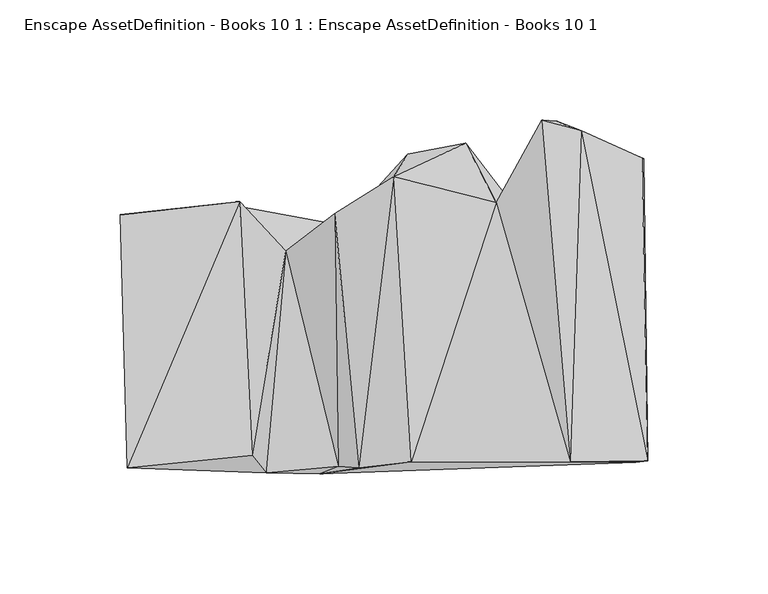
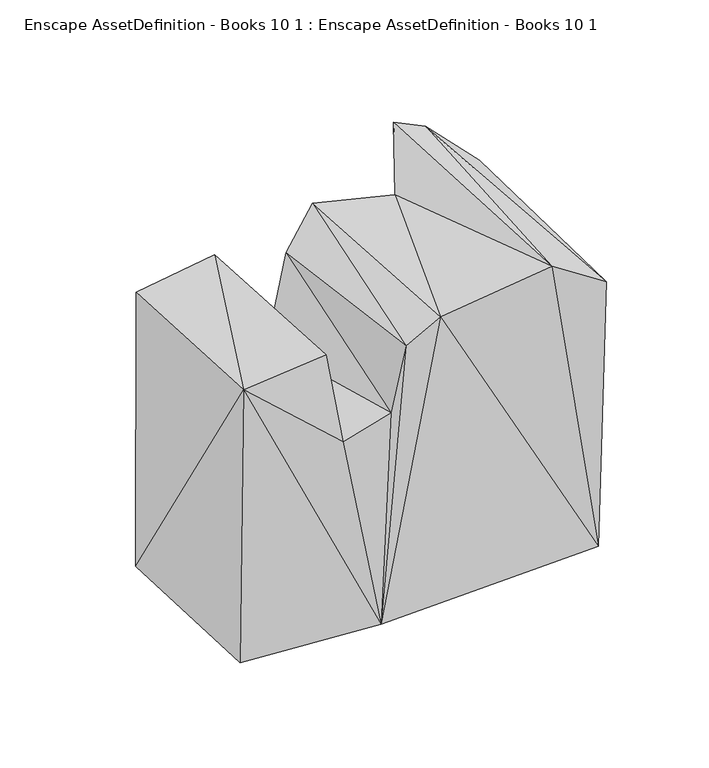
"""IFC4 building model written with IfcOpenShell, lengths in millimetres: geographic element geometry, Enscape AssetDefinition - Books 10 1 : Enscape AssetDefinition - Books 10 1."""

import ifcopenshell
import ifcopenshell.guid

model = None  # the IFC model being written
_history = None  # IfcOwnerHistory: only IFC2X3 demands one
_inside = {}  # id of a spatial element -> (the spatial element, [elements in it])
_under = {}  # id of a project, library or spatial element -> (it, [spatial elements below it])
_declared = {}  # id of a project -> (the project, [libraries it declares])
_typed = {}  # id of a type object -> (the type object, [elements of that type])
_made_of = {}  # id of a material, layer set ... -> (it, [elements and type objects made of it])


def new_model(schema):
    """Start an empty IFC model of exactly this schema.

    Asked for "IFC4X3", IfcOpenShell would pick the latest addendum, in which some entities
    have other attributes; the version numbers below select the first issue.
    IFC2X3 requires an IfcOwnerHistory on every rooted entity: one is made here for all.
    """
    global model, _history
    if schema == "IFC4X3":
        model = ifcopenshell.file(schema_version=(4, 3, 0, 0))
    else:
        model = ifcopenshell.file(schema=schema)
    _inside.clear()
    _under.clear()
    _declared.clear()
    _typed.clear()
    _made_of.clear()
    _history = None
    if model.schema == "IFC2X3":
        org = make("IfcOrganization", Name="unknown")
        user = make(
            "IfcPersonAndOrganization",
            ThePerson=make("IfcPerson", FamilyName="unknown"),
            TheOrganization=org,
        )
        app = make(
            "IfcApplication",
            ApplicationDeveloper=org,
            Version="unknown",
            ApplicationFullName="unknown",
            ApplicationIdentifier="unknown",
        )
        _history = make(
            "IfcOwnerHistory",
            OwningUser=user,
            OwningApplication=app,
            ChangeAction="ADDED",
            CreationDate=0,
        )
    return model


def make(cls, **values):
    """One entity of the class cls with the attributes given. An attribute that is None is left unset."""
    return model.create_entity(
        cls, **{name: value for name, value in values.items() if value is not None}
    )


def rooted(cls, **values):
    """An entity with a GlobalId (a new one), such as an element, a storey or a relation."""
    return make(cls, GlobalId=ifcopenshell.guid.new(), OwnerHistory=_history, **values)


def si_unit(unit_type, name, prefix=None):
    """IfcSIUnit, for example si_unit("LENGTHUNIT", "METRE", prefix="MILLI")."""
    return make("IfcSIUnit", UnitType=unit_type, Prefix=prefix, Name=name)


def assignment(units):
    """IfcUnitAssignment: the units of a project."""
    return None if units is None else make("IfcUnitAssignment", Units=units)


def point(xyz):
    """IfcCartesianPoint."""
    return None if xyz is None else make("IfcCartesianPoint", Coordinates=xyz)


def direction(xyz):
    """IfcDirection."""
    return None if xyz is None else make("IfcDirection", DirectionRatios=xyz)


def frame(location, z_axis=None, x_axis=None):
    """IfcAxis2Placement3D, a coordinate frame: its origin and axes. An axis left out is left unset."""
    return make(
        "IfcAxis2Placement3D",
        Location=point(location),
        Axis=direction(z_axis),
        RefDirection=direction(x_axis),
    )


def origin():
    """The frame at (0, 0, 0) with its axes left unset."""
    return frame((0.0, 0.0, 0.0))


def place(relative_to, where):
    """IfcLocalPlacement: puts the frame where relative to a parent placement (None: the world)."""
    return make(
        "IfcLocalPlacement", PlacementRelTo=relative_to, RelativePlacement=where
    )


def context(
    kind, dimensions, precision=None, world=None, true_north=None, identifier=None
):
    """IfcGeometricRepresentationContext, for example the 3D "Model" context."""
    return make(
        "IfcGeometricRepresentationContext",
        ContextIdentifier=identifier,
        ContextType=kind,
        CoordinateSpaceDimension=dimensions,
        Precision=precision,
        WorldCoordinateSystem=world,
        TrueNorth=true_north,
    )


def project(units=None, contexts=None):
    """IfcProject with its units and contexts."""
    return rooted(
        "IfcProject",
        Name="project",
        RepresentationContexts=contexts,
        UnitsInContext=assignment(units),
    )


def spatial(cls, under=None, at=None, **own):
    """A site, building, storey or space (cls), placed at a placement, below another one or the project."""
    s = rooted(cls, ObjectPlacement=at, **own)
    if under is not None:
        _under.setdefault(under.id(), (under, []))[1].append(s)
    return s


def faces_of(points, faces, orient=None, outer=None):
    """IfcFace entities. A face is a list of loops; a loop is a list of indices into points, from 0.

    orient and outer hold one flag for each loop. By default every Orientation is true, the
    first loop of a face is its IfcFaceOuterBound and the others are IfcFaceBound.
    """
    made = []
    for i, loops in enumerate(faces):
        bounds = []
        for j, loop in enumerate(loops):
            is_outer = j == 0 if outer is None else outer[i][j]
            bounds.append(
                make(
                    "IfcFaceOuterBound" if is_outer else "IfcFaceBound",
                    Bound=make("IfcPolyLoop", Polygon=[points[k] for k in loop]),
                    Orientation=True if orient is None else orient[i][j],
                )
            )
        made.append(make("IfcFace", Bounds=bounds))
    return made


def faceted_brep(points, faces, orient=None, outer=None, voids=None):
    """IfcFacetedBrep: a solid bounded by flat faces; with voids (closed shells), ...WithVoids."""
    shared = [point(p) for p in points]
    hull = make("IfcClosedShell", CfsFaces=faces_of(shared, faces, orient, outer))
    if voids is None:
        return make("IfcFacetedBrep", Outer=hull)
    return make(
        "IfcFacetedBrepWithVoids",
        Outer=hull,
        Voids=[
            make(cls, CfsFaces=faces_of(shared, fs, o, b)) for cls, fs, o, b in voids
        ],
    )


def shape(context_of_items, identifier, shape_type, items):
    """IfcShapeRepresentation: the items that make up one representation, for example the "Body"."""
    return make(
        "IfcShapeRepresentation",
        ContextOfItems=context_of_items,
        RepresentationIdentifier=identifier,
        RepresentationType=shape_type,
        Items=items,
    )


def source(mapping_origin, context_of_items, identifier, shape_type, items):
    """IfcRepresentationMap: a shape defined once, which mapped items show again and again."""
    return make(
        "IfcRepresentationMap",
        MappingOrigin=mapping_origin,
        MappedRepresentation=shape(context_of_items, identifier, shape_type, items),
    )


def transform(
    local_origin,
    x_axis=None,
    y_axis=None,
    z_axis=None,
    scale=None,
    scale2=None,
    scale3=None,
    uniform=True,
):
    """IfcCartesianTransformationOperator3D, or its non-uniform kind. x_axis, y_axis, z_axis: its Axis1, 2, 3."""
    if uniform:
        return make(
            "IfcCartesianTransformationOperator3D",
            Axis1=direction(x_axis),
            Axis2=direction(y_axis),
            LocalOrigin=point(local_origin),
            Scale=scale,
            Axis3=direction(z_axis),
        )
    return make(
        "IfcCartesianTransformationOperator3DnonUniform",
        Axis1=direction(x_axis),
        Axis2=direction(y_axis),
        LocalOrigin=point(local_origin),
        Scale=scale,
        Axis3=direction(z_axis),
        Scale2=scale2,
        Scale3=scale3,
    )


def mapped(mapping_source, mapping_target):
    """IfcMappedItem: shows the shape of a source again, moved by a transform."""
    return make(
        "IfcMappedItem", MappingSource=mapping_source, MappingTarget=mapping_target
    )


def made_of(thing, what):
    """Note that an element or type object is made of a material, layer set ...; save() writes the relation."""
    if what is not None:
        _made_of.setdefault(what.id(), (what, []))[1].append(thing)
    return thing


def element(
    cls,
    number,
    at=None,
    inside=None,
    cuts=None,
    type_object=None,
    material=None,
    context=None,
    identifier="Body",
    shape_type=None,
    held_by="IfcProductDefinitionShape",
    body=None,
    shapes=None,
    **own,
):
    """One element of the class cls, such as IfcWall. Its Tag is "e" and its number.

    at: its placement. inside: the storey or other place that contains it. cuts: it is an
    opening in that element (IfcRelVoidsElement). A single representation is given by context,
    identifier, shape_type and body (its items); several are given by shapes. held_by: the class
    of the entity that holds the representations. save() writes the other relations.
    """
    e = rooted(cls, Tag="e%d" % number, ObjectPlacement=at, **own)
    if body is not None:
        shapes = [shape(context, identifier, shape_type, body)]
    if shapes is not None:
        e.Representation = make(held_by, Representations=shapes)
    if inside is not None:
        _inside.setdefault(inside.id(), (inside, []))[1].append(e)
    if cuts is not None:
        rooted(
            "IfcRelVoidsElement", RelatingBuildingElement=cuts, RelatedOpeningElement=e
        )
    if type_object is not None:
        _typed.setdefault(type_object.id(), (type_object, []))[1].append(e)
    return made_of(e, material)


def aggregate(whole, parts):
    """IfcRelAggregates: a whole, such as a stair, and the parts it consists of."""
    return rooted("IfcRelAggregates", RelatingObject=whole, RelatedObjects=parts)


def save(model, path):
    """Write the relations noted so far, then the file.

    IfcRelAggregates (storeys below a building ...), IfcRelContainedInSpatialStructure (elements
    in a storey), IfcRelDefinesByType, IfcRelAssociatesMaterial and IfcRelDeclares: one each for
    every whole, place, type object, material and project.
    """
    for whole, parts in _under.values():
        aggregate(whole, parts)
    for where, things in _inside.values():
        rooted(
            "IfcRelContainedInSpatialStructure",
            RelatedElements=things,
            RelatingStructure=where,
        )
    for kind, things in _typed.values():
        rooted("IfcRelDefinesByType", RelatedObjects=things, RelatingType=kind)
    for what, things in _made_of.values():
        rooted("IfcRelAssociatesMaterial", RelatedObjects=things, RelatingMaterial=what)
    for by, libraries in _declared.values():
        rooted("IfcRelDeclares", RelatingContext=by, RelatedDefinitions=libraries)
    model.write(path)


def enscape_assetdefinition_books_10_1_enscape_assetdefinition_3c0ef03e(model_context):
    return source(origin(), model_context, "Body", "Brep", [
        faceted_brep([(-111.1806333, 35.635516, 0.0), (-108.2041785, -66.2049279, 0.0), (-108.2387492, -69.8173717, 173.3287424), (-28.125247, -72.3089427, 0.0), (-111.234948, 35.4310945, 171.9027311), (-64.7808984, 39.7180244, 0.0), (-61.3007881, 41.0907082, 174.3775159), (-56.2712327, -64.7720098, 173.9716381), (-50.4516363, -71.8921944, 121.7384711), (-42.1572551, 20.5043722, 124.0088269), (-18.6102614, 31.1461426, 0.0), (-20.3819163, -69.2120045, 127.9856712), (-21.7368267, 35.9979458, 164.6758765), (-11.9127408, -69.850944, 167.3432291), (2.7720353, 51.5734851, 177.9445261), (8.655821, 60.8188696, 0.0), (32.6659717, 65.4000863, 0.0), (9.9376533, -67.3722103, 176.4000058), (45.4586148, 40.6156965, 174.8377234), (52.3684584, 39.7624597, 0.0), (103.5074294, -67.5637946, 0.0), (64.3562526, 75.0790015, 192.8455681), (76.167278, -67.4136877, 184.6884638), (108.5715443, -66.9841021, 163.4078771), (70.6232041, 74.7155845, 0.0), (106.8058237, 59.0008013, 0.0), (80.8472484, 70.5521032, 187.3182803), (106.1046645, 59.1232553, 164.0922427)], [[[0, 1, 2]], [[0, 3, 1]], [[3, 2, 1]], [[0, 2, 4]], [[5, 3, 0]], [[4, 6, 0]], [[6, 5, 0]], [[6, 4, 2]], [[6, 2, 7]], [[8, 2, 3]], [[7, 2, 8]], [[6, 7, 9]], [[6, 9, 5]], [[5, 10, 3]], [[9, 10, 5]], [[9, 7, 8]], [[9, 8, 11]], [[12, 9, 11]], [[9, 12, 10]], [[11, 8, 3]], [[13, 12, 11]], [[13, 11, 3]], [[14, 10, 12]], [[12, 13, 14]], [[10, 15, 3]], [[14, 15, 10]], [[16, 15, 14]], [[14, 17, 18]], [[18, 16, 14]], [[14, 13, 17]], [[17, 13, 3]], [[3, 19, 20]], [[17, 3, 20]], [[15, 19, 3]], [[16, 19, 15]], [[19, 16, 18]], [[21, 19, 18]], [[18, 17, 22]], [[21, 18, 22]], [[17, 20, 22]], [[23, 22, 20]], [[24, 25, 20]], [[19, 24, 20]], [[25, 23, 20]], [[21, 24, 19]], [[26, 21, 22]], [[21, 26, 24]], [[26, 22, 23]], [[27, 26, 23]], [[25, 27, 23]], [[24, 27, 25]], [[26, 27, 24]]]),
    ])


if __name__ == "__main__":
    model = new_model("IFC4")
    model_context = context("Model", 3, world=origin())
    ifc_project = project(units=[si_unit("LENGTHUNIT", "METRE", prefix="MILLI")], contexts=[model_context])
    site = spatial("IfcSite", under=ifc_project)
    building = spatial("IfcBuilding", under=site)
    placement = place(None, origin())
    enscape_assetdefinition_books_10_1_enscape_assetdefinition_shape = enscape_assetdefinition_books_10_1_enscape_assetdefinition_3c0ef03e(model_context)
    element("IfcGeographicElement", 1, ObjectType="Enscape AssetDefinition - Books 10 1 : Enscape AssetDefinition - Books 10 1", at=placement, inside=building, context=model_context, shape_type="MappedRepresentation", body=[
        mapped(enscape_assetdefinition_books_10_1_enscape_assetdefinition_shape, transform((0.0, 0.0, 0.0), x_axis=(1.0, 0.0, 0.0), y_axis=(0.0, 1.0, 0.0), z_axis=(0.0, 0.0, 1.0))),
    ])
    save(model, "model.ifc")
